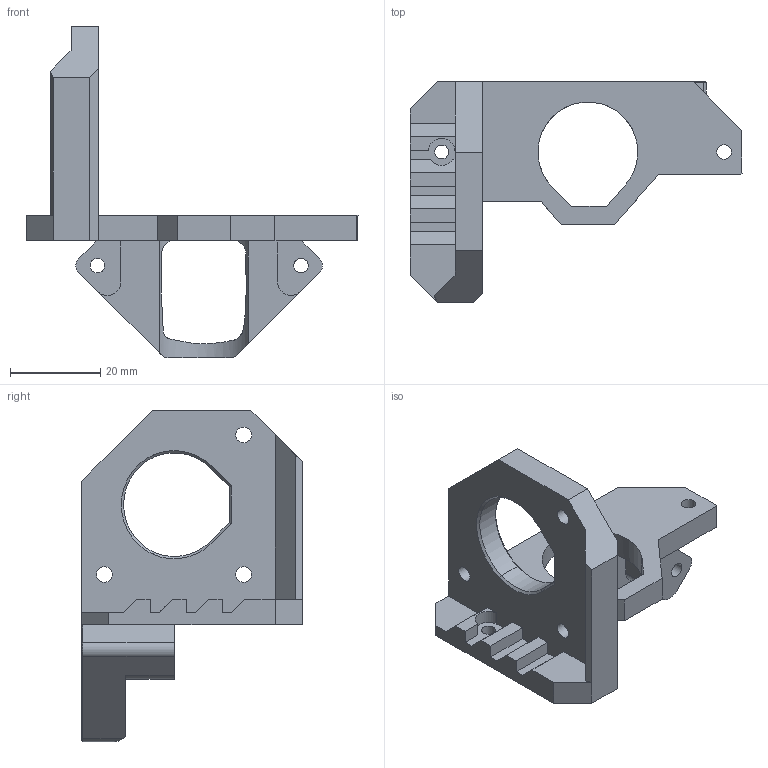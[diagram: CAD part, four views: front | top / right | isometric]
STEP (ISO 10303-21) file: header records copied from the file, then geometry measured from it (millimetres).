
FILE_DESCRIPTION(/* description */ (''),/* implementation_level */ '2;1');
FILE_NAME(/* name */ 'mount-bmg-v6-2.1.step',/* time_stamp */ '2023-09-17T17:22:15+02:00',/* author */ (''),/* organization */ (''),/* preprocessor_version */ 'ST-DEVELOPER v20',/* originating_system */ 'Autodesk Translation Framework v12.9.0.99',/* authorisation */ '');
FILE_SCHEMA (('AUTOMOTIVE_DESIGN { 1 0 10303 214 3 1 1 }'));
Length unit declared in the file: millimetre
Products named in the file (1): icarus-2-bmg-mount
Bounding box: 73.77 x 49 x 73.68 mm (x, y, z)
Volume: 23807.2 mm3; surface area: 12425.1 mm2
Topology: 1 solids, 1 shells, 115 faces, 320 edges, 205 vertices
Faces by surface type: plane 71, cylinder 22, cone 14, bspline 8
Full cylindrical faces by diameter (mm): 3.1 x1, 3.25 x4, 3.5 x3
Entity records: 3995 total; most frequent: CARTESIAN_POINT 1004, ORIENTED_EDGE 640, DIRECTION 575, EDGE_CURVE 320, LINE 229, VECTOR 229, VERTEX_POINT 205, AXIS2_PLACEMENT_3D 173
